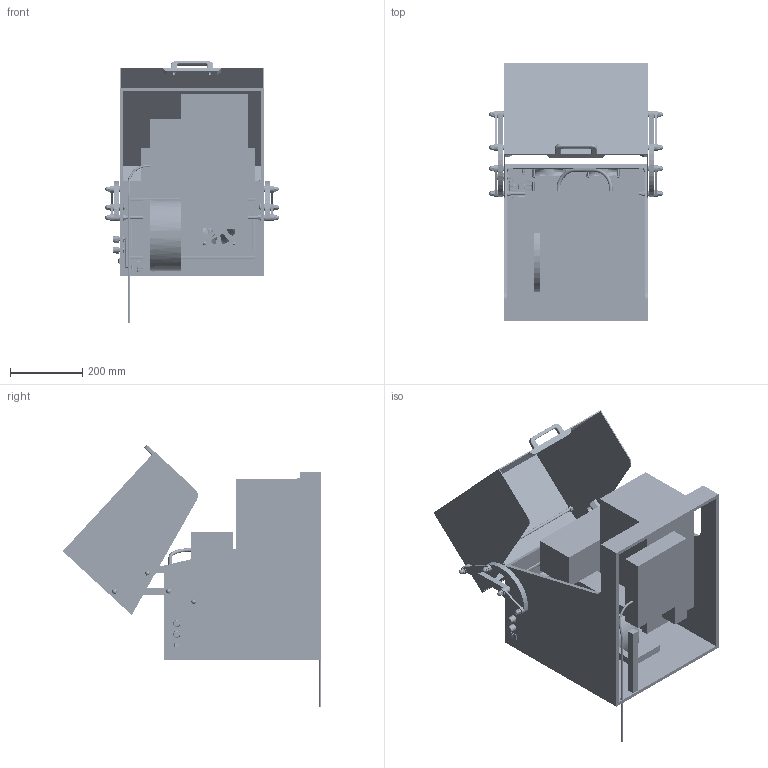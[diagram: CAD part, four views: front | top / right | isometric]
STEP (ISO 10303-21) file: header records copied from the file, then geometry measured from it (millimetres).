
FILE_DESCRIPTION (( 'STEP AP214' ), '1' );
FILE_NAME ('Assy_Enclosure.STEP', '2018-07-29T12:02:49', ( '' ), ( '' ), 'SwSTEP 2.0', 'SolidWorks 2016', '' );
FILE_SCHEMA (( 'AUTOMOTIVE_DESIGN' ));
Length unit declared in the file: millimetre
Products named in the file (91): Wire_1^Assy_Electronics_Board; 92mm_PC_fan; ISO 7380 Flanged M8x40 A2; Arduino_Nano; Header_Female_15-pin; Wire_10^Assy_Electronics_Board; Capacitor_100uF; Copy of Pin^Copy of PinEnd_Copy of TopFace_Copy of PCB_Arduino_Nano; Assy_swing_panels; Assy_fixed_panels; Wire_9^Assy_Electronics_Board; Copy of cap^Copy of caps_Copy of BottomFace_Copy of PCB_Arduino_Nano; Side_frame_right; Copy of PCB^Copy of PCB_Arduino_Nano; Front_swing; Front_fixed; Wire_8^Assy_Electronics_Board; Copy of USB^Copy of TopFace_Copy of PCB_Arduino_Nano; Circuit_board_standoff; Wire_3^Assy_Electronics_Board; LED_strip_100mm; fan^92mm_PC_fan; Wire_7^Assy_Electronics_Board; Copy of chip1^Copy of TopFace_Copy of PCB_Arduino_Nano; Top_swing; Side_frame_left; Assy_Enclosure; Wire_6^Assy_Electronics_Board; Side_fixed_right; LED_strip_350mm; DC_jack_connector_female; plain washer normal grade a_iso_Washer ISO 7089 - 8; Copy of switch^Copy of TopFace_Copy of PCB_Arduino_Nano; Side_swing; Copy of vreg^Copy of BottomFace_Copy of PCB_Arduino_Nano; Copy of diode^Copy of BottomFace_Copy of PCB_Arduino_Nano; Copy of PinEnd^Copy of TopFace_Copy of PCB_Arduino_Nano; plain washer normal grade a_iso_Washer ISO 7089 - 10; Copy of PCB^Arduino_Nano; Hinge_top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
Assembly tree (217 placements, depth 8):
  Assy_Enclosure
    Printer_dummy
    Assy_fixed
      Assy_fixed_panels
        Side_fixed_right
        Front_fixed
        Back_fixed
        Top_fixed
        Side_fixed_left
      Filter  x2
      Filter_retention_strip  x8
      92mm_PC_fan  x2
        fan form^92mm_PC_fan
        fan^92mm_PC_fan
      LED_strip_100mm  x2
      LED_strip_350mm  x2
      Switch_DPST_H8550XBAAA
      Potentiometer_10k  x2
      Control_knob  x2
      DC_jack_connector_female
      Assy_Electronics_Board
        Circuit_board
        Header_Female_15-pin  x2
        Arduino_Nano
          Copy of PCB^Arduino_Nano
            Copy of PCB^Copy of PCB_Arduino_Nano
            Copy of TopFace^Copy of PCB_Arduino_Nano
              Copy of switch^Copy of TopFace_Copy of PCB_Arduino_Nano
              Copy of Leds^Copy of TopFace_Copy of PCB_Arduino_Nano
                Copy of Led^Copy of Leds_Copy of TopFace_Copy of PCB_Arduino_Nano  x3
                Copy of Led (1)^Copy of Leds_Copy of TopFace_Copy of PCB_Arduino_Nano
              Copy of PinEnd^Copy of TopFace_Copy of PCB_Arduino_Nano
                Copy of Pin^Copy of PinEnd_Copy of TopFace_Copy of PCB_Arduino_Nano  x6
              Copy of chip1^Copy of TopFace_Copy of PCB_Arduino_Nano
              Copy of USB^Copy of TopFace_Copy of PCB_Arduino_Nano
              Copy of Crystal^Copy of TopFace_Copy of PCB_Arduino_Nano
            Copy of BottomFace^Copy of PCB_Arduino_Nano
              Copy of PinRow2^Copy of BottomFace_Copy of PCB_Arduino_Nano
                Copy of Pin (1)^Copy of PinRow2_Copy of BottomFace_Copy of PCB_Arduino_Nano  x15
              Copy of PinRow1^Copy of BottomFace_Copy of PCB_Arduino_Nano
                Copy of Pin^Copy of PinRow1_Copy of BottomFace_Copy of PCB_Arduino_Nano  x15
              Copy of Resistors^Copy of BottomFace_Copy of PCB_Arduino_Nano
                Copy of Res^Copy of Resistors_Copy of BottomFace_Copy of PCB_Arduino_Nano  x5
              Copy of caps^Copy of BottomFace_Copy of PCB_Arduino_Nano
                Copy of cap^Copy of caps_Copy of BottomFace_Copy of PCB_Arduino_Nano  x2
              Copy of Chip^Copy of BottomFace_Copy of PCB_Arduino_Nano
              Copy of respacks^Copy of BottomFace_Copy of PCB_Arduino_Nano
                Copy of respack^Copy of respacks_Copy of BottomFace_Copy of PCB_Arduino_Nano  x2
              Copy of diode^Copy of BottomFace_Copy of PCB_Arduino_Nano
              Copy of vreg^Copy of BottomFace_Copy of PCB_Arduino_Nano
        Capacitor_100uF
        Diode_1N4007
        Mosfet_IRLZ44N  x4
        Resistor_10k  x4
        Terminal_block_6-way
        Wire_1^Assy_Electronics_Board
        Wire_2^Assy_Electronics_Board
        Wire_3^Assy_Electronics_Board
        Wire_4^Assy_Electronics_Board
        Wire_5^Assy_Electronics_Board
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Bounding box: 481.2 x 715.55 x 725.42 mm (x, y, z)
Volume: 29279182.8 mm3; surface area: 3257710.7 mm2
Topology: 540 solids, 540 shells, 11392 faces, 26391 edges, 16965 vertices
Faces by surface type: plane 5433, cylinder 4600, cone 512, torus 476, bspline 345, sphere 26
Entity records: 290651 total; most frequent: CARTESIAN_POINT 52317, DIRECTION 42240, ORIENTED_EDGE 36208, EDGE_CURVE 18104, AXIS2_PLACEMENT_3D 16747, VERTEX_POINT 11853, EDGE_LOOP 9877, CIRCLE 8825
